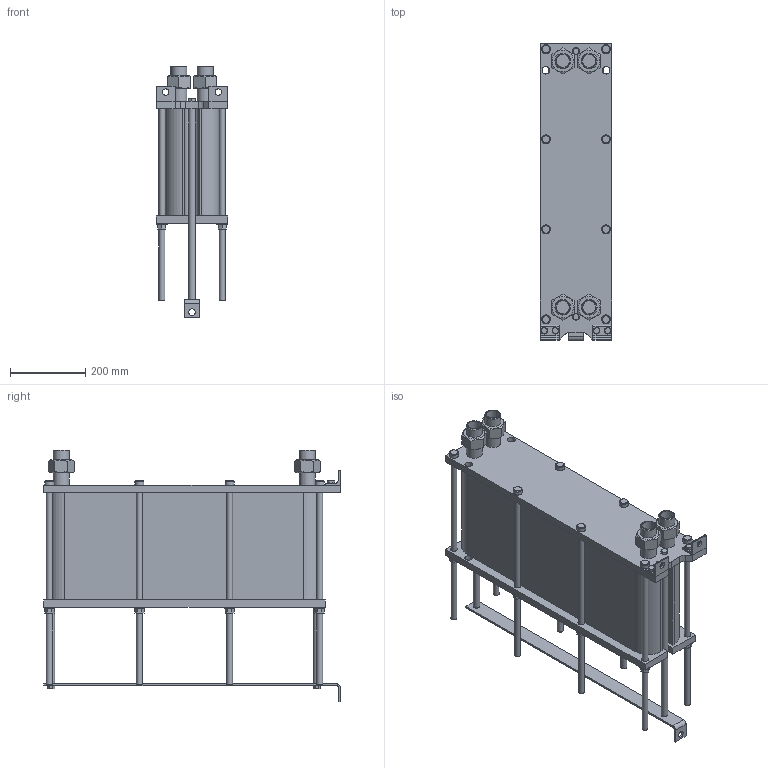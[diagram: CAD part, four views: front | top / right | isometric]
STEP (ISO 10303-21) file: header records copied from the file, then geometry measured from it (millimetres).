
FILE_DESCRIPTION(/* description */ (''),/* implementation_level */ '2;1');
FILE_NAME(/* name */ 'C:\Users\zhuro\Desktop\ENCO\TO\ЭН-008\ЭН-0,5-008-92-1.stp',/* time_stamp */ '2022-06-06T10:53:55+03:00',/* author */ ('zhuro'),/* organization */ (''),/* preprocessor_version */ 'ST-DEVELOPER v18.1',/* originating_system */ 'Autodesk Inventor 2022',/* authorisation */ '');
FILE_SCHEMA (('AUTOMOTIVE_DESIGN { 1 0 10303 214 3 1 1 }'));
Length unit declared in the file: millimetre
Products named in the file (1): ЭН-0,5-008-92-1
Bounding box: 190 x 790 x 670.6 mm (x, y, z)
Volume: 36009405.5 mm3; surface area: 1953854.2 mm2
Topology: 40 solids, 40 shells, 428 faces, 924 edges, 606 vertices
Faces by surface type: plane 273, cylinder 109, cone 40, torus 6
Full cylindrical faces by diameter (mm): 12 x6, 14 x2, 16 x20, 17 x8, 18 x19, 20 x5, 24 x8, 28 x8, 34.3 x8, 42.3 x8
Entity records: 15843 total; most frequent: CARTESIAN_POINT 5991, DIRECTION 1984, ORIENTED_EDGE 1848, EDGE_CURVE 924, AXIS2_PLACEMENT_3D 715, VERTEX_POINT 606, LINE 554, VECTOR 554
